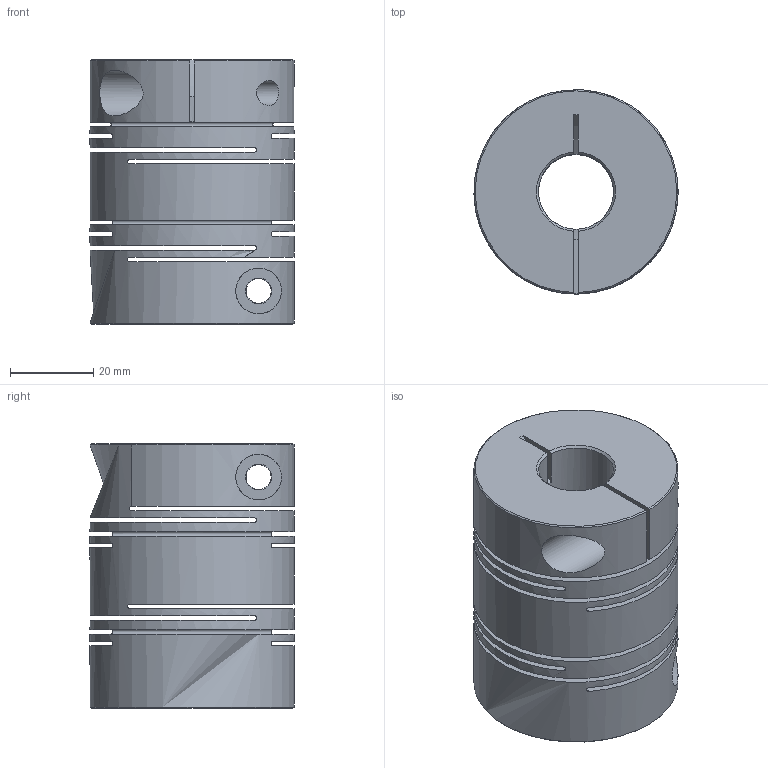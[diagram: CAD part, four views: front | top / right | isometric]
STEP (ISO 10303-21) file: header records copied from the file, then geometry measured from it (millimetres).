
FILE_DESCRIPTION( ( 'Unknown' ), '1' );
FILE_NAME( 'D:/3D/目敲傅/SRBA Type/SRBA-49C.stp', 'Unknown', ( 'Unknown' ), ( 'Unknown' ), 'XStep 1.0', 'Unknown', ' ' );
FILE_SCHEMA( ( 'CONFIG_CONTROL_DESIGN' ) );
Length unit declared in the file: millimetre
Products named in the file (1): 1
Bounding box: 49 x 49 x 63.5 mm (x, y, z)
Volume: 84895.1 mm3; surface area: 39111 mm2
Topology: 1 solids, 1 shells, 63 faces, 183 edges, 123 vertices
Faces by surface type: cylinder 29, plane 28, cone 6
Full cylindrical faces by diameter (mm): 6 x2, 6.2 x2, 11 x2, 18 x2, 20 x7, 49 x1
Entity records: 2376 total; most frequent: CARTESIAN_POINT 849, DIRECTION 294, ORIENTED_EDGE 284, EDGE_CURVE 142, AXIS2_PLACEMENT_3D 125, EDGE_LOOP 110, VERTEX_POINT 104, FACE_OUTER_BOUND 78
